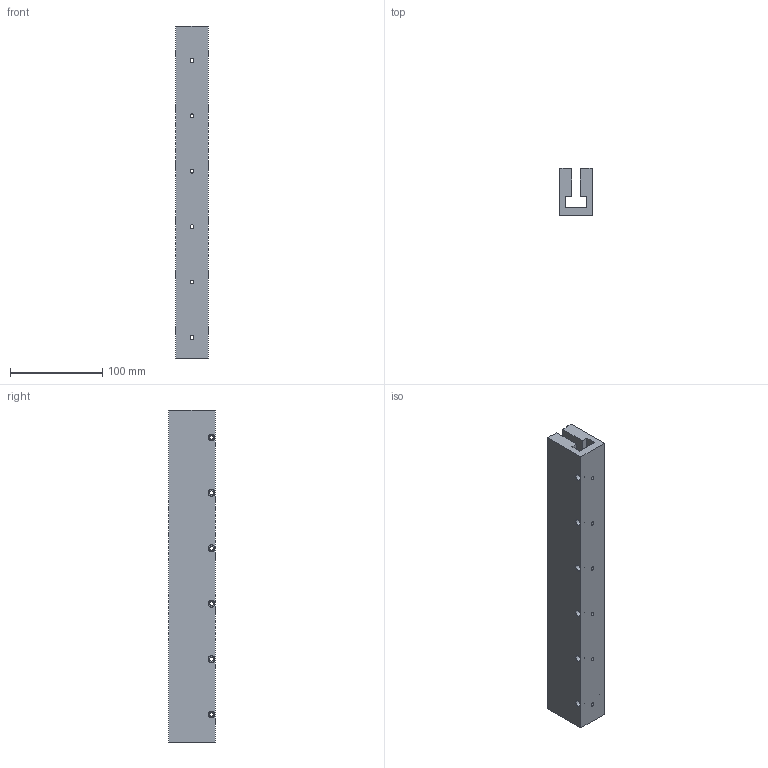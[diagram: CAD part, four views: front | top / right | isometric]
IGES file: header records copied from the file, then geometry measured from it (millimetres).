
Start section: SolidWorks IGES file using analytic representation for surfaces
Bounding box: 35.7 x 50.8 x 359.5 mm (x, y, z)
Surface area: 109103.3 mm2 (no closed solid volume)
Topology: 0 solids, 0 shells, 78 faces, 1824 edges, 1824 vertices
Faces by surface type: revolution 48, bspline 30
